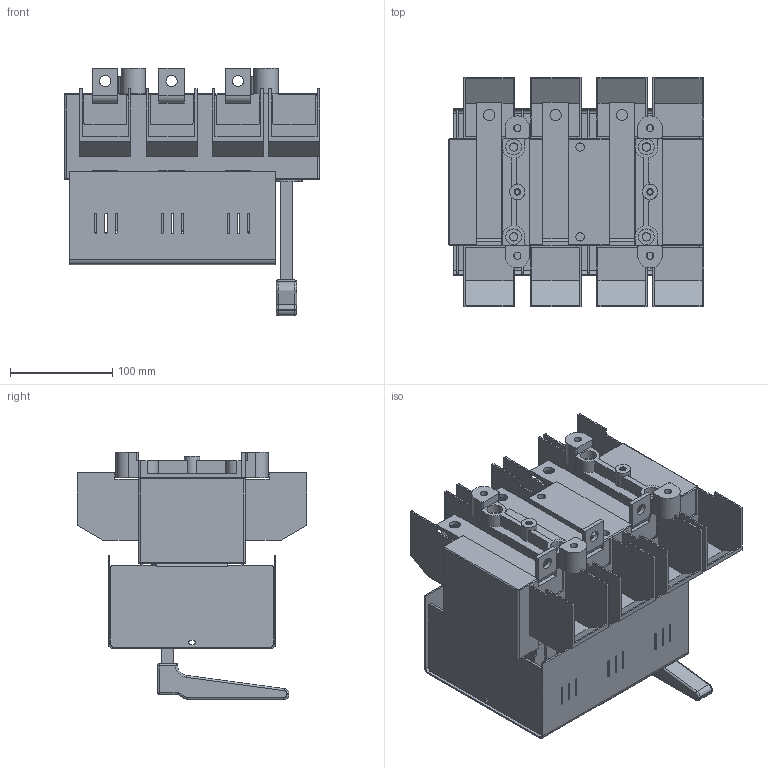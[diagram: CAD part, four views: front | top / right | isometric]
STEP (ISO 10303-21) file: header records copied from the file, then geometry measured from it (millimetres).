
FILE_DESCRIPTION(/* description */ (''),/* implementation_level */ '2;1');
FILE_NAME(/* name */ 'RAB 1 P3 A-R z oslona zaciskow.stp',/* time_stamp */ '2021-08-19T12:30:34+02:00',/* author */ (''),/* organization */ (''),/* preprocessor_version */ 'ST-DEVELOPER v18.1',/* originating_system */ 'SIEMENS PLM Software NX 1965',/* authorisation */ '');
FILE_SCHEMA (('AUTOMOTIVE_DESIGN { 1 0 10303 214 3 1 1 1 }'));
Length unit declared in the file: millimetre
Products named in the file (1): RAB 1 P3 A-R z oslona zaciskow
Bounding box: 250 x 225 x 242.3 mm (x, y, z)
Volume: 2594216.3 mm3; surface area: 625309.1 mm2
Topology: 1 solids, 7 shells, 1426 faces, 3889 edges, 2521 vertices
Faces by surface type: plane 978, cylinder 426, bspline 8, torus 8, sphere 6
Full cylindrical faces by diameter (mm): 2.5 x4, 4.8 x2, 5.2 x18, 6.2 x2, 7 x4, 8.2 x6, 11 x6, 14 x4, 15 x2, 15.5 x4
Entity records: 45017 total; most frequent: CARTESIAN_POINT 8185, ORIENTED_EDGE 7654, DIRECTION 7535, EDGE_CURVE 3827, LINE 2929, VECTOR 2929, VERTEX_POINT 2510, AXIS2_PLACEMENT_3D 2303
